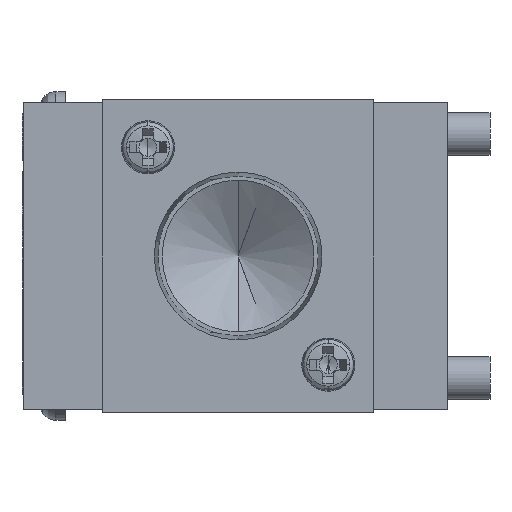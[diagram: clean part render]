
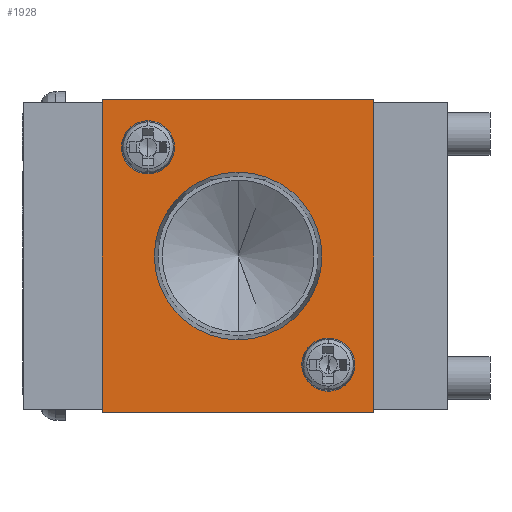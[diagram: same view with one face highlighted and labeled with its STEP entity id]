
A CAD part, left-side view. The second image highlights one B-rep face of the part: STEP entity #1928.
In plain terms, the highlighted planar face has unit normal (-1, 0, 0) as drawn and (1, 0, 0) by its records, which use the part's own axes.
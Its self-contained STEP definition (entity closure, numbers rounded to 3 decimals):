
#23 = CARTESIAN_POINT ( 'NONE',  ( 12.1, 19.95, 28.25 ) ) ;
#204 = FACE_BOUND ( 'NONE', #1743, .T. ) ;
#623 = DIRECTION ( 'NONE',  ( 0., 0., -1. ) ) ;
#1341 = CARTESIAN_POINT ( 'NONE',  ( 12.1, 32.75, 13.5 ) ) ;
#1434 = DIRECTION ( 'NONE',  ( 0., 0., -1. ) ) ;
#1442 = EDGE_LOOP ( 'NONE', ( #4419, #7973, #4133, #8155 ) ) ;
#1497 = VERTEX_POINT ( 'NONE', #7924 ) ;
#1590 = VERTEX_POINT ( 'NONE', #2143 ) ;
#1638 = FACE_OUTER_BOUND ( 'NONE', #1442, .T. ) ;
#1646 = LINE ( 'NONE', #3310, #8741 ) ;
#1688 = EDGE_CURVE ( 'NONE', #1497, #3491, #1646, .T. ) ;
#1743 = EDGE_LOOP ( 'NONE', ( #1960, #2427 ) ) ;
#1790 = EDGE_CURVE ( 'NONE', #1590, #7975, #5077, .T. ) ;
#1928 = ADVANCED_FACE ( 'NONE', ( #204, #1638 ), #2690, .T. ) ;
#1956 = EDGE_CURVE ( 'NONE', #2441, #3239, #8733, .T. ) ;
#1960 = ORIENTED_EDGE ( 'NONE', *, *, #1790, .F. ) ;
#2009 = EDGE_CURVE ( 'NONE', #7975, #1590, #8946, .T. ) ;
#2049 = VECTOR ( 'NONE', #3587, 1000. ) ;
#2143 = CARTESIAN_POINT ( 'NONE',  ( 12.1, 32.75, 5.597 ) ) ;
#2253 = LINE ( 'NONE', #4040, #4718 ) ;
#2427 = ORIENTED_EDGE ( 'NONE', *, *, #2009, .F. ) ;
#2441 = VERTEX_POINT ( 'NONE', #7458 ) ;
#2641 = AXIS2_PLACEMENT_3D ( 'NONE', #1341, #7498, #8876 ) ;
#2690 = PLANE ( 'NONE',  #6357 ) ;
#2798 = VECTOR ( 'NONE', #1434, 1000. ) ;
#3034 = CARTESIAN_POINT ( 'NONE',  ( 12.1, 19.95, -1.25 ) ) ;
#3052 = EDGE_CURVE ( 'NONE', #3491, #2441, #3439, .T. ) ;
#3239 = VERTEX_POINT ( 'NONE', #3034 ) ;
#3298 = CARTESIAN_POINT ( 'NONE',  ( 12.1, 32.75, 13.5 ) ) ;
#3310 = CARTESIAN_POINT ( 'NONE',  ( 12.1, 45.55, 28.25 ) ) ;
#3399 = DIRECTION ( 'NONE',  ( 0., 1., 0. ) ) ;
#3439 = LINE ( 'NONE', #4374, #2049 ) ;
#3452 = CARTESIAN_POINT ( 'NONE',  ( 12.1, 32.75, 21.403 ) ) ;
#3491 = VERTEX_POINT ( 'NONE', #4023 ) ;
#3587 = DIRECTION ( 'NONE',  ( 0., -1., 0. ) ) ;
#4023 = CARTESIAN_POINT ( 'NONE',  ( 12.1, 45.55, 28.25 ) ) ;
#4040 = CARTESIAN_POINT ( 'NONE',  ( 12.1, 45.55, -1.25 ) ) ;
#4133 = ORIENTED_EDGE ( 'NONE', *, *, #7459, .T. ) ;
#4374 = CARTESIAN_POINT ( 'NONE',  ( 12.1, 45.55, 28.25 ) ) ;
#4419 = ORIENTED_EDGE ( 'NONE', *, *, #3052, .T. ) ;
#4674 = AXIS2_PLACEMENT_3D ( 'NONE', #3298, #6753, #6048 ) ;
#4718 = VECTOR ( 'NONE', #3399, 1000. ) ;
#4833 = DIRECTION ( 'NONE',  ( 1., 0., 0. ) ) ;
#5077 = CIRCLE ( 'NONE', #4674, 7.903 ) ;
#5441 = DIRECTION ( 'NONE',  ( 0., 0., 1. ) ) ;
#5455 = CARTESIAN_POINT ( 'NONE',  ( 12.1, 0., 0. ) ) ;
#6048 = DIRECTION ( 'NONE',  ( 0., 0., -1. ) ) ;
#6357 = AXIS2_PLACEMENT_3D ( 'NONE', #5455, #4833, #623 ) ;
#6753 = DIRECTION ( 'NONE',  ( 1., 0., 0. ) ) ;
#7458 = CARTESIAN_POINT ( 'NONE',  ( 12.1, 19.95, 28.25 ) ) ;
#7459 = EDGE_CURVE ( 'NONE', #3239, #1497, #2253, .T. ) ;
#7498 = DIRECTION ( 'NONE',  ( 1., 0., 0. ) ) ;
#7924 = CARTESIAN_POINT ( 'NONE',  ( 12.1, 45.55, -1.25 ) ) ;
#7973 = ORIENTED_EDGE ( 'NONE', *, *, #1956, .T. ) ;
#7975 = VERTEX_POINT ( 'NONE', #3452 ) ;
#8155 = ORIENTED_EDGE ( 'NONE', *, *, #1688, .T. ) ;
#8733 = LINE ( 'NONE', #23, #2798 ) ;
#8741 = VECTOR ( 'NONE', #5441, 1000. ) ;
#8876 = DIRECTION ( 'NONE',  ( 0., 0., -1. ) ) ;
#8946 = CIRCLE ( 'NONE', #2641, 7.903 ) ;
